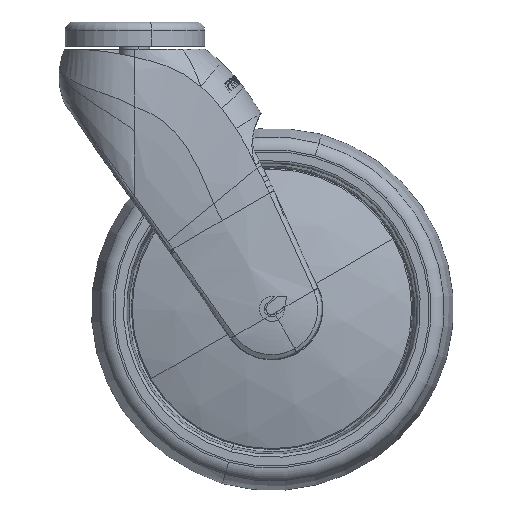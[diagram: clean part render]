
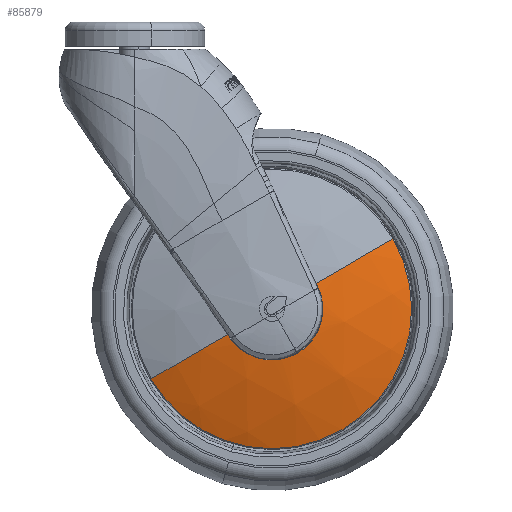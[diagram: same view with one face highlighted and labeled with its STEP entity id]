
A CAD part, front view. The second image highlights one B-rep face of the part: STEP entity #85879.
In plain terms, the highlighted spherical face has radius 136.86 mm.
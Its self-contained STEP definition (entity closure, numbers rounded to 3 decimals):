
#63287 = CIRCLE ( 'NONE', #63378, 135.74 ) ;
#63288 = CARTESIAN_POINT ( 'NONE',  ( 15.774, 113.77, 7.521 ) ) ;
#63289 = CARTESIAN_POINT ( 'NONE',  ( 15.171, -21.962, 8.786 ) ) ;
#63339 = DIRECTION ( 'NONE',  ( -0.865, 0., -0.501 ) ) ;
#63369 = DIRECTION ( 'NONE',  ( 0., 1., 0. ) ) ;
#63370 = CARTESIAN_POINT ( 'NONE',  ( 0., -21.97, 0. ) ) ;
#63371 = AXIS2_PLACEMENT_3D ( 'NONE', #63370, #63369, #63339 ) ;
#63372 = CIRCLE ( 'NONE', #63371, 17.476 ) ;
#63374 = CARTESIAN_POINT ( 'NONE',  ( 15.774, -21.97, 7.521 ) ) ;
#63375 = DIRECTION ( 'NONE',  ( 0.43, 0., -0.903 ) ) ;
#63377 = DIRECTION ( 'NONE',  ( 0.903, 0., 0.43 ) ) ;
#63378 = AXIS2_PLACEMENT_3D ( 'NONE', #63288, #63377, #63375 ) ;
#63479 = CIRCLE ( 'NONE', #63524, 135.74 ) ;
#63480 = DIRECTION ( 'NONE',  ( 0.865, 0., 0.501 ) ) ;
#63481 = DIRECTION ( 'NONE',  ( 0.501, 0., -0.865 ) ) ;
#63482 = AXIS2_PLACEMENT_3D ( 'NONE', #63510, #63481, #63480 ) ;
#63483 = SPHERICAL_SURFACE ( 'NONE', #63482, 136.86 ) ;
#63484 = FACE_OUTER_BOUND ( 'NONE', #85882, .T. ) ;
#63510 = CARTESIAN_POINT ( 'NONE',  ( 0., 113.77, 0. ) ) ;
#63519 = CARTESIAN_POINT ( 'NONE',  ( -15.171, -21.962, -8.786 ) ) ;
#63520 = CARTESIAN_POINT ( 'NONE',  ( -14.375, -21.97, -9.938 ) ) ;
#63521 = DIRECTION ( 'NONE',  ( -0.569, 0., 0.823 ) ) ;
#63522 = DIRECTION ( 'NONE',  ( -0.823, 0., -0.569 ) ) ;
#63523 = CARTESIAN_POINT ( 'NONE',  ( -14.375, 113.77, -9.938 ) ) ;
#63524 = AXIS2_PLACEMENT_3D ( 'NONE', #63523, #63522, #63521 ) ;
#63655 = DIRECTION ( 'NONE',  ( 0.865, 0., 0.501 ) ) ;
#63656 = DIRECTION ( 'NONE',  ( -0.501, 0., 0.865 ) ) ;
#63657 = CARTESIAN_POINT ( 'NONE',  ( 0., 113.77, 0. ) ) ;
#63658 = AXIS2_PLACEMENT_3D ( 'NONE', #63657, #63656, #63655 ) ;
#63659 = CIRCLE ( 'NONE', #63658, 136.86 ) ;
#63661 = CARTESIAN_POINT ( 'NONE',  ( 41.473, -14.425, 24.017 ) ) ;
#63662 = DIRECTION ( 'NONE',  ( -0.865, 0., -0.501 ) ) ;
#63664 = DIRECTION ( 'NONE',  ( 0., 1., 0. ) ) ;
#63665 = CARTESIAN_POINT ( 'NONE',  ( 0., -14.425, 0. ) ) ;
#63666 = AXIS2_PLACEMENT_3D ( 'NONE', #63665, #63664, #63662 ) ;
#63667 = CIRCLE ( 'NONE', #63666, 47.925 ) ;
#63668 = CARTESIAN_POINT ( 'NONE',  ( -41.473, -14.425, -24.017 ) ) ;
#63669 = DIRECTION ( 'NONE',  ( -0.865, 0., -0.501 ) ) ;
#63670 = DIRECTION ( 'NONE',  ( 0.501, 0., -0.865 ) ) ;
#63671 = AXIS2_PLACEMENT_3D ( 'NONE', #63679, #63670, #63669 ) ;
#63672 = CIRCLE ( 'NONE', #63671, 136.86 ) ;
#63679 = CARTESIAN_POINT ( 'NONE',  ( 0., 113.77, 0. ) ) ;
#85879 = ADVANCED_FACE ( 'NONE', ( #63484 ), #63483, .T. ) ;
#85882 = EDGE_LOOP ( 'NONE', ( #85884, #86005, #86011, #86017, #86024, #86030 ) ) ;
#85884 = ORIENTED_EDGE ( 'NONE', *, *, #85886, .T. ) ;
#85886 = EDGE_CURVE ( 'NONE', #85888, #85890, #63479, .T. ) ;
#85888 = VERTEX_POINT ( 'NONE', #63520 ) ;
#85890 = VERTEX_POINT ( 'NONE', #63519 ) ;
#86005 = ORIENTED_EDGE ( 'NONE', *, *, #86007, .T. ) ;
#86007 = EDGE_CURVE ( 'NONE', #85890, #86009, #63672, .T. ) ;
#86009 = VERTEX_POINT ( 'NONE', #63668 ) ;
#86011 = ORIENTED_EDGE ( 'NONE', *, *, #86013, .F. ) ;
#86013 = EDGE_CURVE ( 'NONE', #86015, #86009, #63667, .T. ) ;
#86015 = VERTEX_POINT ( 'NONE', #63661 ) ;
#86017 = ORIENTED_EDGE ( 'NONE', *, *, #86019, .F. ) ;
#86019 = EDGE_CURVE ( 'NONE', #86022, #86015, #63659, .T. ) ;
#86022 = VERTEX_POINT ( 'NONE', #63289 ) ;
#86024 = ORIENTED_EDGE ( 'NONE', *, *, #86026, .T. ) ;
#86026 = EDGE_CURVE ( 'NONE', #86022, #86028, #63287, .T. ) ;
#86028 = VERTEX_POINT ( 'NONE', #63374 ) ;
#86030 = ORIENTED_EDGE ( 'NONE', *, *, #86032, .T. ) ;
#86032 = EDGE_CURVE ( 'NONE', #86028, #85888, #63372, .T. ) ;
